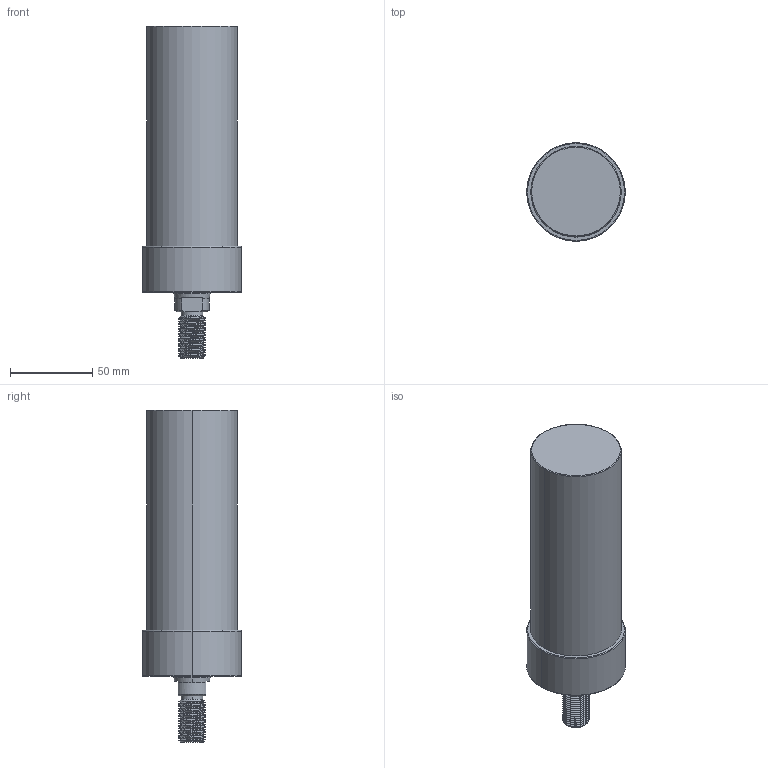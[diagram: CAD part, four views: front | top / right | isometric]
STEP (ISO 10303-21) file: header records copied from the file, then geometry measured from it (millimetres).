
FILE_DESCRIPTION (( 'STEP AP203' ), '1' );
FILE_NAME ('CLLU-055GT-105.STEP', '2020-01-16T01:53:31', ( '' ), ( '' ), 'SwSTEP 2.0', 'SolidWorks 2015', '' );
FILE_SCHEMA (( 'CONFIG_CONTROL_DESIGN' ));
Length unit declared in the file: millimetre
Products named in the file (1): CLLU-055GT-105
Bounding box: 60 x 60 x 202 mm (x, y, z)
Volume: 404852.9 mm3; surface area: 38094.2 mm2
Topology: 1 solids, 1 shells, 103 faces, 256 edges, 156 vertices
Faces by surface type: cylinder 56, cone 27, plane 12, torus 6, bspline 2
Entity records: 4927 total; most frequent: CARTESIAN_POINT 2617, ORIENTED_EDGE 496, DIRECTION 449, EDGE_CURVE 248, AXIS2_PLACEMENT_3D 180, VERTEX_POINT 156, EDGE_LOOP 112, FACE_OUTER_BOUND 103
